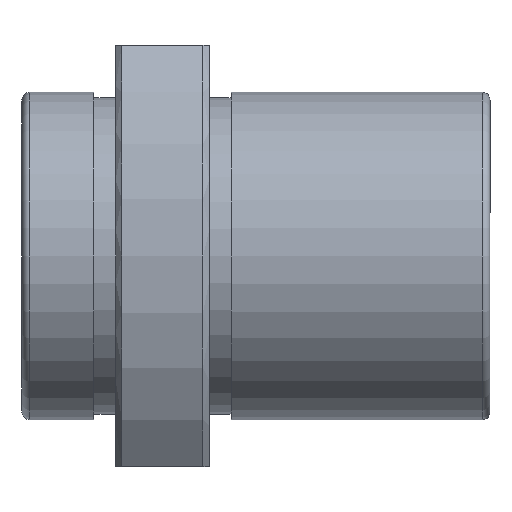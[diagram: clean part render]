
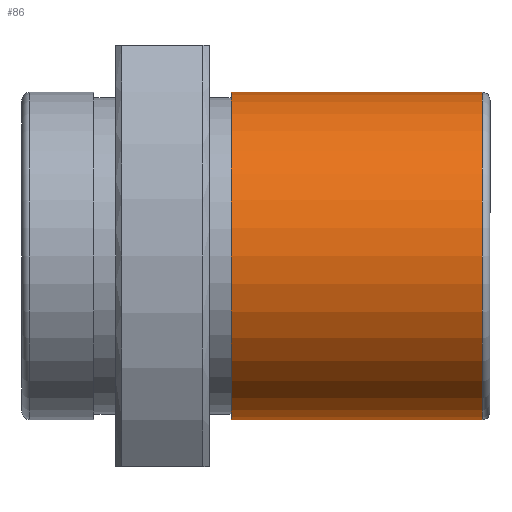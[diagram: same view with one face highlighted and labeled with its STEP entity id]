
A CAD part, front view. The second image highlights one B-rep face of the part: STEP entity #86.
In plain terms, the highlighted cylindrical face has radius 10.5 mm (diameter 21 mm), a full revolution.
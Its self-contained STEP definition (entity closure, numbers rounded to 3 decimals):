
#86=ADVANCED_FACE('',(#136,#137),#138,.T.);
#136=FACE_OUTER_BOUND('',#213,.T.);
#137=FACE_OUTER_BOUND('',#214,.T.);
#138=CYLINDRICAL_SURFACE('',#215,10.5);
#213=EDGE_LOOP('',(#325));
#214=EDGE_LOOP('',(#326));
#215=AXIS2_PLACEMENT_3D('',#327,#328,#329);
#325=ORIENTED_EDGE('',*,*,#453,.T.);
#326=ORIENTED_EDGE('',*,*,#451,.T.);
#327=CARTESIAN_POINT('',(18.0,0.,0.));
#328=DIRECTION('',(1.0,-0.0,0.));
#329=DIRECTION('',(0.0,-1.0,0.0));
#451=EDGE_CURVE('',#518,#518,#519,.F.);
#453=EDGE_CURVE('',#522,#522,#523,.T.);
#518=VERTEX_POINT('',#618);
#519=CIRCLE('',#619,10.5);
#522=VERTEX_POINT('',#622);
#523=CIRCLE('',#623,10.5);
#618=CARTESIAN_POINT('',(17.5,0.,-10.5));
#619=AXIS2_PLACEMENT_3D('',#712,#713,#714);
#622=CARTESIAN_POINT('',(1.4,0.,-10.5));
#623=AXIS2_PLACEMENT_3D('',#718,#719,#720);
#712=CARTESIAN_POINT('',(17.5,0.,0.));
#713=DIRECTION('',(1.0,0.0,0.));
#714=DIRECTION('',(0.,0.0,-1.0));
#718=CARTESIAN_POINT('',(1.4,0.,0.));
#719=DIRECTION('',(1.0,0.0,0.));
#720=DIRECTION('',(0.,0.0,-1.0));
